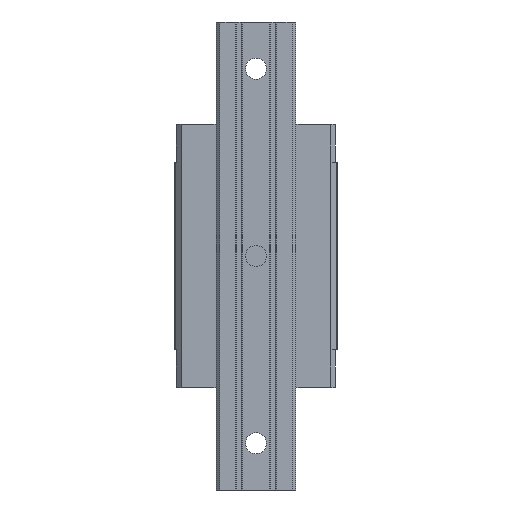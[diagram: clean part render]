
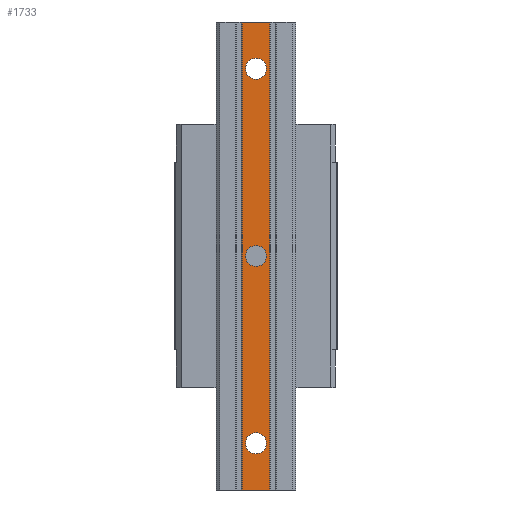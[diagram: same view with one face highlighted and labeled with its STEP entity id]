
A CAD part, front view. The second image highlights one B-rep face of the part: STEP entity #1733.
In plain terms, the highlighted planar face has unit normal (0, -1, 0).
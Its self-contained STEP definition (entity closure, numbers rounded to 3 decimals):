
#42 = DIRECTION ( 'NONE',  ( 0., 0., 1. ) ) ;
#109 = VERTEX_POINT ( 'NONE', #3788 ) ;
#176 = LINE ( 'NONE', #1602, #572 ) ;
#345 = AXIS2_PLACEMENT_3D ( 'NONE', #5938, #4516, #1513 ) ;
#361 = CIRCLE ( 'NONE', #3954, 4.5 ) ;
#363 = DIRECTION ( 'NONE',  ( 0., 1., 0. ) ) ;
#390 = FACE_BOUND ( 'NONE', #3830, .T. ) ;
#522 = CARTESIAN_POINT ( 'NONE',  ( 0., -29., 0. ) ) ;
#529 = VECTOR ( 'NONE', #6061, 1000. ) ;
#533 = EDGE_CURVE ( 'NONE', #109, #2880, #2562, .T. ) ;
#539 = CARTESIAN_POINT ( 'NONE',  ( 0., -29., 75.5 ) ) ;
#572 = VECTOR ( 'NONE', #3569, 1000. ) ;
#576 = EDGE_CURVE ( 'NONE', #4378, #6298, #6287, .T. ) ;
#627 = CARTESIAN_POINT ( 'NONE',  ( -5.85, -29., -100. ) ) ;
#692 = CARTESIAN_POINT ( 'NONE',  ( 0., -29., -100. ) ) ;
#720 = LINE ( 'NONE', #692, #1394 ) ;
#740 = EDGE_LOOP ( 'NONE', ( #1691, #4642 ) ) ;
#1338 = EDGE_LOOP ( 'NONE', ( #3724, #3051, #5072, #5615 ) ) ;
#1342 = CARTESIAN_POINT ( 'NONE',  ( 0., -29., -80. ) ) ;
#1358 = AXIS2_PLACEMENT_3D ( 'NONE', #3489, #4552, #2483 ) ;
#1394 = VECTOR ( 'NONE', #6090, 1000. ) ;
#1513 = DIRECTION ( 'NONE',  ( 0., 0., 1. ) ) ;
#1568 = CARTESIAN_POINT ( 'NONE',  ( 5.85, -29., 100. ) ) ;
#1602 = CARTESIAN_POINT ( 'NONE',  ( 0., -29., 100. ) ) ;
#1691 = ORIENTED_EDGE ( 'NONE', *, *, #2954, .T. ) ;
#1711 = CARTESIAN_POINT ( 'NONE',  ( 0., -29., 84.5 ) ) ;
#1733 = ADVANCED_FACE ( 'NONE', ( #2455, #1877, #390, #4403 ), #5882, .T. ) ;
#1877 = FACE_BOUND ( 'NONE', #740, .T. ) ;
#1941 = CARTESIAN_POINT ( 'NONE',  ( 0., -29., 4.5 ) ) ;
#2010 = AXIS2_PLACEMENT_3D ( 'NONE', #1342, #363, #6222 ) ;
#2153 = LINE ( 'NONE', #627, #4995 ) ;
#2455 = FACE_BOUND ( 'NONE', #3374, .T. ) ;
#2483 = DIRECTION ( 'NONE',  ( 0., 0., -1. ) ) ;
#2562 = LINE ( 'NONE', #4966, #529 ) ;
#2578 = VERTEX_POINT ( 'NONE', #3606 ) ;
#2600 = DIRECTION ( 'NONE',  ( 0., 0., -1. ) ) ;
#2657 = VERTEX_POINT ( 'NONE', #1711 ) ;
#2804 = AXIS2_PLACEMENT_3D ( 'NONE', #6028, #3074, #3999 ) ;
#2838 = AXIS2_PLACEMENT_3D ( 'NONE', #522, #3196, #42 ) ;
#2880 = VERTEX_POINT ( 'NONE', #1568 ) ;
#2954 = EDGE_CURVE ( 'NONE', #2657, #3639, #5486, .T. ) ;
#3051 = ORIENTED_EDGE ( 'NONE', *, *, #4726, .F. ) ;
#3056 = DIRECTION ( 'NONE',  ( 0., 1., 0. ) ) ;
#3074 = DIRECTION ( 'NONE',  ( 0., 1., 0. ) ) ;
#3190 = CARTESIAN_POINT ( 'NONE',  ( 0., -29., -80. ) ) ;
#3196 = DIRECTION ( 'NONE',  ( 0., 1., 0. ) ) ;
#3374 = EDGE_LOOP ( 'NONE', ( #4242, #4342 ) ) ;
#3377 = AXIS2_PLACEMENT_3D ( 'NONE', #4820, #5815, #4755 ) ;
#3419 = CARTESIAN_POINT ( 'NONE',  ( 0., -29., -84.5 ) ) ;
#3435 = EDGE_CURVE ( 'NONE', #3972, #109, #720, .T. ) ;
#3489 = CARTESIAN_POINT ( 'NONE',  ( -5.85, -29., -100. ) ) ;
#3500 = EDGE_CURVE ( 'NONE', #3681, #2578, #4556, .T. ) ;
#3543 = DIRECTION ( 'NONE',  ( 0., 0., 1. ) ) ;
#3569 = DIRECTION ( 'NONE',  ( 1., 0., 0. ) ) ;
#3606 = CARTESIAN_POINT ( 'NONE',  ( 0., -29., -75.5 ) ) ;
#3639 = VERTEX_POINT ( 'NONE', #539 ) ;
#3649 = CARTESIAN_POINT ( 'NONE',  ( -5.85, -29., -100. ) ) ;
#3681 = VERTEX_POINT ( 'NONE', #3419 ) ;
#3724 = ORIENTED_EDGE ( 'NONE', *, *, #533, .T. ) ;
#3788 = CARTESIAN_POINT ( 'NONE',  ( 5.85, -29., -100. ) ) ;
#3830 = EDGE_LOOP ( 'NONE', ( #5807, #5212 ) ) ;
#3954 = AXIS2_PLACEMENT_3D ( 'NONE', #3190, #3056, #3543 ) ;
#3972 = VERTEX_POINT ( 'NONE', #3649 ) ;
#3999 = DIRECTION ( 'NONE',  ( 0., 0., 1. ) ) ;
#4242 = ORIENTED_EDGE ( 'NONE', *, *, #576, .T. ) ;
#4342 = ORIENTED_EDGE ( 'NONE', *, *, #4949, .T. ) ;
#4378 = VERTEX_POINT ( 'NONE', #1941 ) ;
#4403 = FACE_OUTER_BOUND ( 'NONE', #1338, .T. ) ;
#4464 = EDGE_CURVE ( 'NONE', #3639, #2657, #4802, .T. ) ;
#4508 = CARTESIAN_POINT ( 'NONE',  ( 0., -29., -4.5 ) ) ;
#4516 = DIRECTION ( 'NONE',  ( 0., 1., 0. ) ) ;
#4552 = DIRECTION ( 'NONE',  ( 0., -1., 0. ) ) ;
#4556 = CIRCLE ( 'NONE', #2010, 4.5 ) ;
#4642 = ORIENTED_EDGE ( 'NONE', *, *, #4464, .T. ) ;
#4726 = EDGE_CURVE ( 'NONE', #5980, #2880, #176, .T. ) ;
#4753 = EDGE_CURVE ( 'NONE', #5980, #3972, #2153, .T. ) ;
#4755 = DIRECTION ( 'NONE',  ( 0., 0., 1. ) ) ;
#4802 = CIRCLE ( 'NONE', #3377, 4.5 ) ;
#4820 = CARTESIAN_POINT ( 'NONE',  ( 0., -29., 80. ) ) ;
#4949 = EDGE_CURVE ( 'NONE', #6298, #4378, #6108, .T. ) ;
#4966 = CARTESIAN_POINT ( 'NONE',  ( 5.85, -29., -100. ) ) ;
#4995 = VECTOR ( 'NONE', #2600, 1000. ) ;
#5072 = ORIENTED_EDGE ( 'NONE', *, *, #4753, .T. ) ;
#5212 = ORIENTED_EDGE ( 'NONE', *, *, #3500, .T. ) ;
#5303 = EDGE_CURVE ( 'NONE', #2578, #3681, #361, .T. ) ;
#5486 = CIRCLE ( 'NONE', #345, 4.5 ) ;
#5605 = CARTESIAN_POINT ( 'NONE',  ( -5.85, -29., 100. ) ) ;
#5615 = ORIENTED_EDGE ( 'NONE', *, *, #3435, .T. ) ;
#5807 = ORIENTED_EDGE ( 'NONE', *, *, #5303, .T. ) ;
#5815 = DIRECTION ( 'NONE',  ( 0., 1., 0. ) ) ;
#5882 = PLANE ( 'NONE',  #1358 ) ;
#5938 = CARTESIAN_POINT ( 'NONE',  ( 0., -29., 80. ) ) ;
#5980 = VERTEX_POINT ( 'NONE', #5605 ) ;
#6028 = CARTESIAN_POINT ( 'NONE',  ( 0., -29., 0. ) ) ;
#6061 = DIRECTION ( 'NONE',  ( 0., 0., 1. ) ) ;
#6090 = DIRECTION ( 'NONE',  ( 1., 0., 0. ) ) ;
#6108 = CIRCLE ( 'NONE', #2838, 4.5 ) ;
#6222 = DIRECTION ( 'NONE',  ( 0., 0., 1. ) ) ;
#6287 = CIRCLE ( 'NONE', #2804, 4.5 ) ;
#6298 = VERTEX_POINT ( 'NONE', #4508 ) ;
